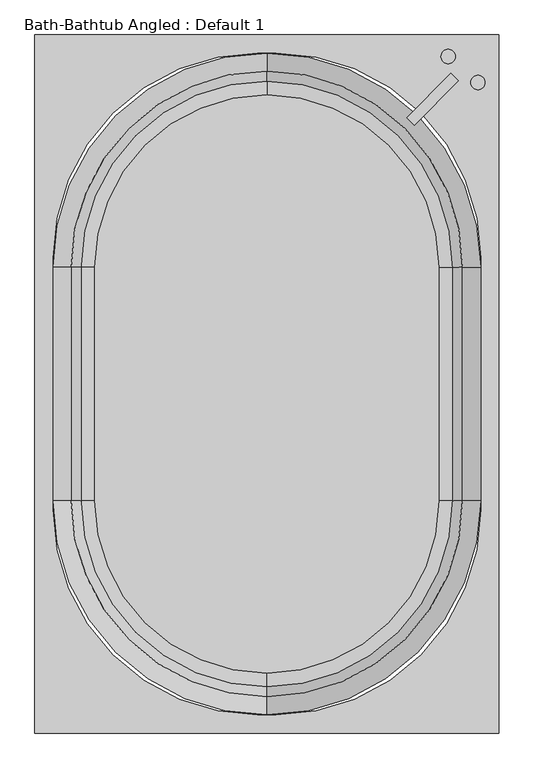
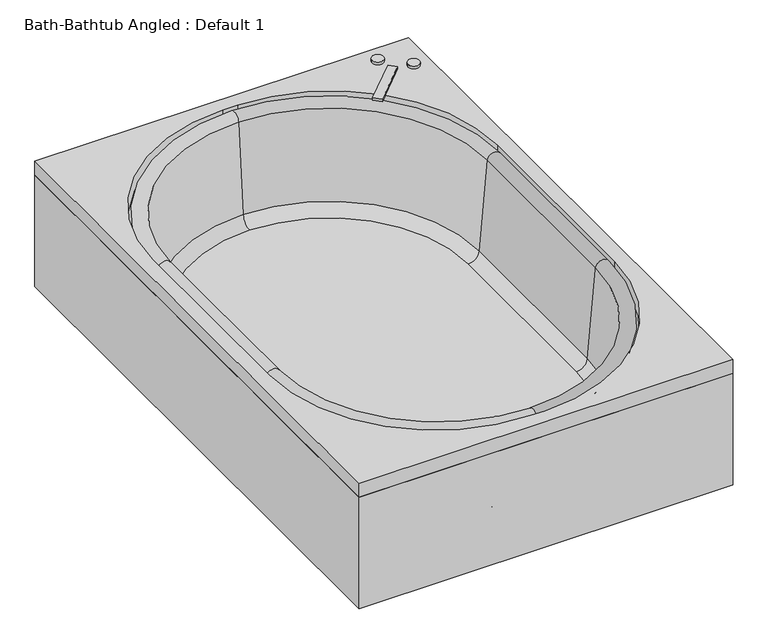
"""IFC4 building model written with IfcOpenShell, lengths in millimetres: flow terminal geometry, Bath-Bathtub Angled : Default 1."""

from ifc_helpers import new_model, si_unit, point, frame, frame_2d, origin, origin_with_axes, place, context, project, spatial, polyline, circle_curve, ellipse_curve, trimmed, segment, composite_curve, outline, extrude, source, transform, mapped, element, save
from ifc_brep_helpers import plane_surface, cylinder_surface, revolved_surface, advanced_brep


def bath_bathtub_angled_default_1_0dda685f(model_context):
    return source(origin(), model_context, "Body", "SolidModel", [
        advanced_brep(
        [(0.0, 796.6318005, 0.0), (-470.3, 326.3318005, 0.0), (-480.5824236, 326.3318005, 0.0), (0.0, 806.9142241, 0.0), (480.5824236, 326.3318005, 0.0), (470.3, 326.3318005, 0.0), (470.3, 326.3318005, 66.3), (0.0, 796.6318005, 66.3), (480.5824236, 326.3318005, 65.9536107), (480.5824236, 326.3318005, 66.3), (0.0, 806.9142241, 65.9536107), (-480.5824236, 326.3318005, 65.9536107), (-470.3, 326.3318005, 66.3), (-480.5824236, 326.3318005, 66.3), (-480.5824236, -326.3318005, 81.38125), (0.0, -806.9142241, 81.38125), (480.5824236, -326.3318005, 81.38125), (480.5824236, 326.3318005, 81.38125), (0.0, 806.9142241, 81.38125), (-480.5824236, 326.3318005, 81.38125), (480.5824236, -326.3318005, 66.3), (0.0, -806.9142241, 66.3), (-480.5824236, -326.3318005, 66.3), (-480.5824236, -326.3318005, 80.8774627), (0.0, -806.9142241, 80.8774627), (480.5824236, -326.3318005, 80.8774627), (480.5824236, 326.3318005, 80.8774627), (0.0, 806.9142241, 80.8774627), (-480.5824236, 326.3318005, 80.8774627), (0.0, -885.5318005, 409.2), (559.2, -326.3318005, 409.2), (571.9, -326.3318005, 409.2), (0.0, -898.2318005, 409.2), (0.0, -859.7363044, 114.3561295), (533.4045038, -326.3318005, 114.3561295), (0.0, -806.9142241, 65.9536107), (480.5824236, -326.3318005, 65.9536107), (0.0, -844.8692421, 115.6568289), (518.5374416, -326.3318005, 115.6568289), (0.0, -873.0879561, 438.1982063), (546.7561556, -326.3318005, 438.1982063), (-571.9, -326.3318005, 409.2), (-559.2, -326.3318005, 409.2), (-533.4045038, -326.3318005, 114.3561295), (-480.5824236, -326.3318005, 65.9536107), (-518.5374416, -326.3318005, 115.6568289), (-546.7561556, -326.3318005, 438.1982063), (-571.9, 326.3318005, 409.2), (-559.2, 326.3318005, 409.2), (-533.4045038, 326.3318005, 114.3561295), (-518.5374416, 326.3318005, 115.6568289), (-546.7561556, 326.3318005, 438.1982063), (0.0, 898.2318005, 409.2), (0.0, 885.5318005, 409.2), (0.0, 859.7363044, 114.3561295), (0.0, 844.8692421, 115.6568289), (0.0, 873.0879561, 438.1982063), (571.9, 326.3318005, 409.2), (559.2, 326.3318005, 409.2), (533.4045038, 326.3318005, 114.3561295), (518.5374416, 326.3318005, 115.6568289), (546.7561556, 326.3318005, 438.1982063)],
        [
            (0, 1, circle_curve(frame((0.0, 326.3318005, 0.0), z_axis=(0.0, 0.0, 1.0), x_axis=(1.0, 0.0, 0.0)), 470.3)),
            (1, 2),
            (2, 3, circle_curve(frame((0.0, 326.3318005, 0.0), z_axis=(0.0, 0.0, -1.0), x_axis=(1.0, 0.0, 0.0)), 480.5824236)),
            (3, 4, circle_curve(frame((0.0, 326.3318005, 0.0), z_axis=(0.0, 0.0, -1.0), x_axis=(1.0, 0.0, 0.0)), 480.5824236)),
            (4, 5),
            (5, 0, circle_curve(frame((0.0, 326.3318005, 0.0), z_axis=(0.0, 0.0, 1.0), x_axis=(1.0, 0.0, 0.0)), 470.3)),
            (5, 6),
            (6, 7, circle_curve(frame((0.0, 326.3318005, 66.3), z_axis=(0.0, 0.0, 1.0), x_axis=(1.0, 0.0, 0.0)), 470.3)),
            (7, 0),
            (4, 8),
            (8, 9),
            (9, 6),
            (3, 10),
            (10, 8, circle_curve(frame((0.0, 326.3318005, 65.9536107), z_axis=(0.0, 0.0, -1.0), x_axis=(1.0, 0.0, 0.0)), 480.5824236)),
            (2, 11),
            (11, 10, circle_curve(frame((0.0, 326.3318005, 65.9536107), z_axis=(0.0, 0.0, -1.0), x_axis=(1.0, 0.0, 0.0)), 480.5824236)),
            (1, 12),
            (12, 13),
            (13, 11),
            (7, 12, circle_curve(frame((0.0, 326.3318005, 66.3), z_axis=(0.0, 0.0, 1.0), x_axis=(1.0, 0.0, 0.0)), 470.3)),
            (14, 15, circle_curve(frame((0.0, -326.3318005, 81.38125), z_axis=(0.0, 0.0, 1.0), x_axis=(0.0, -1.0, 0.0)), 480.5824236)),
            (15, 16, circle_curve(frame((0.0, -326.3318005, 81.38125), z_axis=(0.0, 0.0, 1.0), x_axis=(0.0, -1.0, 0.0)), 480.5824236)),
            (16, 17),
            (17, 18, circle_curve(frame((0.0, 326.3318005, 81.38125), z_axis=(0.0, 0.0, 1.0), x_axis=(0.0, -1.0, 0.0)), 480.5824236)),
            (18, 19, circle_curve(frame((0.0, 326.3318005, 81.38125), z_axis=(0.0, 0.0, 1.0), x_axis=(0.0, -1.0, 0.0)), 480.5824236)),
            (19, 14),
            (9, 20),
            (20, 21, circle_curve(frame((0.0, -326.3318005, 66.3), z_axis=(0.0, 0.0, -1.0), x_axis=(1.0, 0.0, 0.0)), 480.5824236)),
            (21, 22, circle_curve(frame((0.0, -326.3318005, 66.3), z_axis=(0.0, 0.0, -1.0), x_axis=(0.0, -1.0, 0.0)), 480.5824236)),
            (22, 13),
            (14, 23),
            (23, 24, circle_curve(frame((0.0, -326.3318005, 80.8774627), z_axis=(0.0, 0.0, 1.0), x_axis=(0.0, -1.0, 0.0)), 480.5824236)),
            (24, 15),
            (24, 25, circle_curve(frame((0.0, -326.3318005, 80.8774627), z_axis=(0.0, 0.0, 1.0), x_axis=(0.0, -1.0, 0.0)), 480.5824236)),
            (25, 16),
            (25, 26),
            (26, 17),
            (26, 27, circle_curve(frame((0.0, 326.3318005, 80.8774627), z_axis=(0.0, 0.0, 1.0), x_axis=(0.0, -1.0, 0.0)), 480.5824236)),
            (27, 18),
            (27, 28, circle_curve(frame((0.0, 326.3318005, 80.8774627), z_axis=(0.0, 0.0, 1.0), x_axis=(0.0, -1.0, 0.0)), 480.5824236)),
            (28, 19),
            (28, 23),
            (29, 30, circle_curve(frame((0.0, -326.3318005, 409.2), z_axis=(0.0, 0.0, 1.0), x_axis=(1.0, 0.0, 0.0)), 559.2)),
            (30, 31),
            (31, 32, circle_curve(frame((0.0, -326.3318005, 409.2), z_axis=(0.0, 0.0, -1.0), x_axis=(1.0, 0.0, 0.0)), 571.9)),
            (32, 29),
            (29, 33),
            (33, 34, circle_curve(frame((0.0, -326.3318005, 114.3561295), z_axis=(0.0, 0.0, 1.0), x_axis=(1.0, 0.0, 0.0)), 533.4045038)),
            (34, 30),
            (33, 35, circle_curve(frame((0.0, -806.9142241, 118.9774627), z_axis=(1.0, 0.0, 0.0), x_axis=(0.0, -1.0, 0.0)), 53.023852)),
            (35, 36, circle_curve(frame((0.0, -326.3318005, 65.9536107), z_axis=(0.0, 0.0, 1.0), x_axis=(1.0, 0.0, 0.0)), 480.5824236)),
            (36, 34, circle_curve(frame((480.5824236, -326.3318005, 118.9774627), z_axis=(0.0, -1.0, 0.0), x_axis=(1.0, 0.0, 0.0)), 53.023852)),
            (35, 21),
            (20, 36),
            (37, 38, circle_curve(frame((0.0, -326.3318005, 115.6568289), z_axis=(0.0, 0.0, 1.0), x_axis=(1.0, 0.0, 0.0)), 518.5374416)),
            (38, 25, circle_curve(frame((480.5824236, -326.3318005, 118.9774627), z_axis=(0.0, 1.0, 0.0), x_axis=(1.0, 0.0, 0.0)), 38.1)),
            (24, 37, circle_curve(frame((0.0, -806.9142241, 118.9774627), z_axis=(-1.0, 0.0, 0.0), x_axis=(0.0, -1.0, 0.0)), 38.1)),
            (37, 39),
            (39, 40, circle_curve(frame((0.0, -326.3318005, 438.1982063), z_axis=(0.0, 0.0, 1.0), x_axis=(1.0, 0.0, 0.0)), 546.7561556)),
            (40, 38),
            (31, 40, circle_curve(frame((571.9, -326.3318005, 434.6), z_axis=(0.0, -1.0, 0.0), x_axis=(1.0, 0.0, 0.0)), 25.4)),
            (39, 32, circle_curve(frame((0.0, -898.2318005, 434.6), z_axis=(1.0, 0.0, 0.0), x_axis=(0.0, -1.0, 0.0)), 25.4)),
            (32, 41, circle_curve(frame((0.0, -326.3318005, 409.2), z_axis=(0.0, 0.0, -1.0), x_axis=(0.0, -1.0, 0.0)), 571.9)),
            (41, 42),
            (42, 29, circle_curve(frame((0.0, -326.3318005, 409.2), z_axis=(0.0, 0.0, 1.0), x_axis=(0.0, -1.0, 0.0)), 559.2)),
            (42, 43),
            (43, 33, circle_curve(frame((0.0, -326.3318005, 114.3561295), z_axis=(0.0, 0.0, 1.0), x_axis=(0.0, -1.0, 0.0)), 533.4045038)),
            (43, 44, circle_curve(frame((-480.5824236, -326.3318005, 118.9774627), z_axis=(0.0, -1.0, 0.0), x_axis=(-1.0, 0.0, 0.0)), 53.023852)),
            (44, 35, circle_curve(frame((0.0, -326.3318005, 65.9536107), z_axis=(0.0, 0.0, 1.0), x_axis=(0.0, -1.0, 0.0)), 480.5824236)),
            (44, 22),
            (23, 45, circle_curve(frame((-480.5824236, -326.3318005, 118.9774627), z_axis=(0.0, 1.0, 0.0), x_axis=(-1.0, 0.0, 0.0)), 38.1)),
            (45, 37, circle_curve(frame((0.0, -326.3318005, 115.6568289), z_axis=(0.0, 0.0, 1.0), x_axis=(0.0, -1.0, 0.0)), 518.5374416)),
            (45, 46),
            (46, 39, circle_curve(frame((0.0, -326.3318005, 438.1982063), z_axis=(0.0, 0.0, 1.0), x_axis=(0.0, -1.0, 0.0)), 546.7561556)),
            (46, 41, circle_curve(frame((-571.9, -326.3318005, 434.6), z_axis=(0.0, -1.0, 0.0), x_axis=(-1.0, 0.0, 0.0)), 25.4)),
            (41, 47),
            (47, 48),
            (48, 42),
            (48, 49),
            (49, 43),
            (49, 11, circle_curve(frame((-480.5824236, 326.3318005, 118.9774627), z_axis=(0.0, -1.0, 0.0), x_axis=(-1.0, 0.0, 0.0)), 53.023852)),
            (11, 44),
            (28, 50, circle_curve(frame((-480.5824236, 326.3318005, 118.9774627), z_axis=(0.0, 1.0, 0.0), x_axis=(-1.0, 0.0, 0.0)), 38.1)),
            (50, 45),
            (50, 51),
            (51, 46),
            (51, 47, circle_curve(frame((-571.9, 326.3318005, 434.6), z_axis=(0.0, -1.0, 0.0), x_axis=(-1.0, 0.0, 0.0)), 25.4)),
            (47, 52, circle_curve(frame((0.0, 326.3318005, 409.2), z_axis=(0.0, 0.0, -1.0), x_axis=(-1.0, 0.0, 0.0)), 571.9)),
            (52, 53),
            (53, 48, circle_curve(frame((0.0, 326.3318005, 409.2), z_axis=(0.0, 0.0, 1.0), x_axis=(-1.0, 0.0, 0.0)), 559.2)),
            (53, 54),
            (54, 49, circle_curve(frame((0.0, 326.3318005, 114.3561295), z_axis=(0.0, 0.0, 1.0), x_axis=(-1.0, 0.0, 0.0)), 533.4045038)),
            (54, 10, circle_curve(frame((0.0, 806.9142241, 118.9774627), z_axis=(-1.0, 0.0, 0.0), x_axis=(0.0, 1.0, 0.0)), 53.023852)),
            (27, 55, circle_curve(frame((0.0, 806.9142241, 118.9774627), z_axis=(1.0, 0.0, 0.0), x_axis=(0.0, 1.0, 0.0)), 38.1)),
            (55, 50, circle_curve(frame((0.0, 326.3318005, 115.6568289), z_axis=(0.0, 0.0, 1.0), x_axis=(-1.0, 0.0, 0.0)), 518.5374416)),
            (55, 56),
            (56, 51, circle_curve(frame((0.0, 326.3318005, 438.1982063), z_axis=(0.0, 0.0, 1.0), x_axis=(-1.0, 0.0, 0.0)), 546.7561556)),
            (56, 52, circle_curve(frame((0.0, 898.2318005, 434.6), z_axis=(-1.0, 0.0, 0.0), x_axis=(0.0, 1.0, 0.0)), 25.4)),
            (52, 57, circle_curve(frame((0.0, 326.3318005, 409.2), z_axis=(0.0, 0.0, -1.0), x_axis=(0.0, 1.0, 0.0)), 571.9)),
            (57, 58),
            (58, 53, circle_curve(frame((0.0, 326.3318005, 409.2), z_axis=(0.0, 0.0, 1.0), x_axis=(0.0, 1.0, 0.0)), 559.2)),
            (58, 59),
            (59, 54, circle_curve(frame((0.0, 326.3318005, 114.3561295), z_axis=(0.0, 0.0, 1.0), x_axis=(0.0, 1.0, 0.0)), 533.4045038)),
            (59, 8, circle_curve(frame((480.5824236, 326.3318005, 118.9774627), z_axis=(0.0, 1.0, 0.0), x_axis=(1.0, 0.0, 0.0)), 53.023852)),
            (26, 60, circle_curve(frame((480.5824236, 326.3318005, 118.9774627), z_axis=(0.0, -1.0, 0.0), x_axis=(1.0, 0.0, 0.0)), 38.1)),
            (60, 55, circle_curve(frame((0.0, 326.3318005, 115.6568289), z_axis=(0.0, 0.0, 1.0), x_axis=(0.0, 1.0, 0.0)), 518.5374416)),
            (60, 61),
            (61, 56, circle_curve(frame((0.0, 326.3318005, 438.1982063), z_axis=(0.0, 0.0, 1.0), x_axis=(0.0, 1.0, 0.0)), 546.7561556)),
            (61, 57, circle_curve(frame((571.9, 326.3318005, 434.6), z_axis=(0.0, 1.0, 0.0), x_axis=(1.0, 0.0, 0.0)), 25.4)),
            (30, 58),
            (57, 31),
            (34, 59),
            (36, 8),
            (38, 60),
            (40, 61),
        ],
        [
            plane_surface(frame((470.3, 326.3318005, 0.0), z_axis=(0.0, 0.0, -1.0), x_axis=(0.0, 1.0, 0.0))),
            revolved_surface(polyline([(470.3, 326.3318005, 0.0), (470.3, 326.3318005, 66.3)]), (0.0, 326.3318005, 0.0), (0.0, 0.0, -1.0)),
            plane_surface(frame((470.3, 326.3318005, 66.3), z_axis=(0.0, -1.0, 0.0), x_axis=(0.0, 0.0, -1.0))),
            cylinder_surface(frame((0.0, 326.3318005, 0.0), z_axis=(0.0, 0.0, 1.0), x_axis=(1.0, 0.0, 0.0)), 480.5824236),
            plane_surface(frame((-480.5824236, 326.3318005, 66.3), z_axis=(0.0, -1.0, 0.0), x_axis=(0.0, 0.0, -1.0))),
            plane_surface(frame((0.0, -806.9142241, 81.38125), z_axis=(0.0, 0.0, 1.0), x_axis=(1.0, 0.0, 0.0))),
            plane_surface(frame((0.0, -806.9142241, 66.3), z_axis=(0.0, 0.0, -1.0), x_axis=(-1.0, 0.0, 0.0))),
            cylinder_surface(frame((0.0, -326.3318005, 66.3), z_axis=(0.0, 0.0, 1.0), x_axis=(0.0, -1.0, 0.0)), 480.5824236),
            plane_surface(frame((480.5824236, -326.3318005, 81.38125), z_axis=(1.0, 0.0, 0.0), x_axis=(0.0, 0.0, -1.0))),
            cylinder_surface(frame((0.0, 326.3318005, 66.3), z_axis=(0.0, 0.0, 1.0), x_axis=(0.0, -1.0, 0.0)), 480.5824236),
            plane_surface(frame((-480.5824236, 326.3318005, 81.38125), z_axis=(-1.0, 0.0, 0.0), x_axis=(0.0, 0.0, -1.0))),
            plane_surface(frame((0.0, -326.3318005, 409.2), z_axis=(0.0, 0.0, -1.0), x_axis=(1.0, 0.0, 0.0))),
            revolved_surface(polyline([(559.2, -326.3318005, 409.2), (533.4045038, -326.3318005, 114.3561295)]), (0.0, -326.3318005, 434.6), (0.0, 0.0, -1.0)),
            revolved_surface(trimmed(ellipse_curve(frame((480.5824236, -326.3318005, 118.9774627), z_axis=(0.0, 1.0, 0.0), x_axis=(1.0, 0.0, 0.0)), 53.023852, 53.023852), [point((533.4045038, -326.3318005, 114.3561295))], [point((480.5824236, -326.3318005, 65.9536107))], True, "CARTESIAN"), (0.0, -326.3318005, 434.6), (0.0, 0.0, -1.0)),
            revolved_surface(polyline([(480.5824236, -326.3318005, 65.95361070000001), (480.5824236, -326.3318005, 66.30000000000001)]), (0.0, -326.3318005, 434.6), (0.0, 0.0, -1.0)),
            revolved_surface(trimmed(ellipse_curve(frame((480.5824236, -326.3318005, 118.9774627), z_axis=(0.0, -1.0, 0.0), x_axis=(1.0, 0.0, 0.0)), 38.1, 38.1), [point((480.5824236, -326.3318005, 80.8774627))], [point((518.5374416, -326.3318005, 115.6568289))], True, "CARTESIAN"), (0.0, -326.3318005, 434.6), (0.0, 0.0, -1.0)),
            revolved_surface(polyline([(518.5374416, -326.3318005, 115.6568289), (546.7561556, -326.3318005, 438.1982063)]), (0.0, -326.3318005, 434.6), (0.0, 0.0, -1.0)),
            revolved_surface(trimmed(ellipse_curve(frame((571.9, -326.3318005, 434.6), z_axis=(0.0, 1.0, 0.0), x_axis=(1.0, 0.0, 0.0)), 25.4, 25.4), [point((546.7561556, -326.3318005, 438.1982063))], [point((571.9, -326.3318005, 409.2))], True, "CARTESIAN"), (0.0, -326.3318005, 434.6), (0.0, 0.0, -1.0)),
            plane_surface(frame((0.0, -326.3318005, 409.2), z_axis=(0.0, 0.0, -1.0), x_axis=(0.0, -1.0, 0.0))),
            revolved_surface(polyline([(0.0, -885.5318005, 409.2), (0.0, -859.7363044, 114.3561295)]), (0.0, -326.3318005, 434.6), (0.0, 0.0, -1.0)),
            revolved_surface(trimmed(ellipse_curve(frame((0.0, -806.9142241, 118.9774627), z_axis=(1.0, 0.0, 0.0), x_axis=(0.0, -1.0, 0.0)), 53.023852, 53.023852), [point((0.0, -859.7363044, 114.3561295))], [point((0.0, -806.9142241, 65.9536107))], True, "CARTESIAN"), (0.0, -326.3318005, 434.6), (0.0, 0.0, -1.0)),
            revolved_surface(polyline([(0.0, -806.9142241, 65.95361070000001), (0.0, -806.9142241, 66.30000000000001)]), (0.0, -326.3318005, 434.6), (0.0, 0.0, -1.0)),
            revolved_surface(trimmed(ellipse_curve(frame((0.0, -806.9142241, 118.9774627), z_axis=(-1.0, 0.0, 0.0), x_axis=(0.0, -1.0, 0.0)), 38.1, 38.1), [point((0.0, -806.9142241, 80.8774627))], [point((0.0, -844.8692421, 115.6568289))], True, "CARTESIAN"), (0.0, -326.3318005, 434.6), (0.0, 0.0, -1.0)),
            revolved_surface(polyline([(0.0, -844.8692421, 115.6568289), (0.0, -873.0879561, 438.1982063)]), (0.0, -326.3318005, 434.6), (0.0, 0.0, -1.0)),
            revolved_surface(trimmed(ellipse_curve(frame((0.0, -898.2318005, 434.6), z_axis=(1.0, 0.0, 0.0), x_axis=(0.0, -1.0, 0.0)), 25.4, 25.4), [point((0.0, -873.0879561, 438.1982063))], [point((0.0, -898.2318005, 409.2))], True, "CARTESIAN"), (0.0, -326.3318005, 434.6), (0.0, 0.0, -1.0)),
            plane_surface(frame((-571.9, -326.3318005, 409.2), z_axis=(0.0, 0.0, -1.0), x_axis=(0.0, 1.0, 0.0))),
            plane_surface(frame((-559.2, -326.3318005, 409.2), z_axis=(-0.9961946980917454, 0.0, -0.08715574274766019), x_axis=(0.0, 1.0, 0.0))),
            cylinder_surface(frame((-480.5824236, -326.3318005, 118.9774627), z_axis=(0.0, -1.0, 0.0), x_axis=(-1.0, 0.0, 0.0)), 53.023852),
            plane_surface(frame((-480.5824236, -326.3318005, 65.9536107), z_axis=(1.0, 0.0, 0.0), x_axis=(0.0, 1.0, 0.0))),
            revolved_surface(polyline([(-518.6824236, 326.3318005, 118.9774627), (-518.6824236, -326.3318005, 118.9774627)]), (-480.5824236, -326.3318005, 118.9774627), (0.0, 1.0, 0.0)),
            plane_surface(frame((-518.5374416, -326.3318005, 115.6568289), z_axis=(0.9961946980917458, 0.0, 0.08715574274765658), x_axis=(0.0, 1.0, 0.0))),
            cylinder_surface(frame((-571.9, -326.3318005, 434.6), z_axis=(0.0, -1.0, 0.0), x_axis=(-1.0, 0.0, 0.0)), 25.4),
            plane_surface(frame((0.0, 326.3318005, 409.2), z_axis=(0.0, 0.0, -1.0), x_axis=(-1.0, 0.0, 0.0))),
            revolved_surface(polyline([(-559.2, 326.3318005, 409.2), (-533.4045038, 326.3318005, 114.3561295)]), (0.0, 326.3318005, 434.6), (0.0, 0.0, -1.0)),
            revolved_surface(trimmed(ellipse_curve(frame((-480.5824236, 326.3318005, 118.9774627), z_axis=(0.0, -1.0, 0.0), x_axis=(-1.0, 0.0, 0.0)), 53.023852, 53.023852), [point((-533.4045038, 326.3318005, 114.3561295))], [point((-480.5824236, 326.3318005, 65.9536107))], True, "CARTESIAN"), (0.0, 326.3318005, 434.6), (0.0, 0.0, -1.0)),
            revolved_surface(trimmed(ellipse_curve(frame((-480.5824236, 326.3318005, 118.9774627), z_axis=(0.0, 1.0, 0.0), x_axis=(-1.0, 0.0, 0.0)), 38.1, 38.1), [point((-480.5824236, 326.3318005, 80.8774627))], [point((-518.5374416, 326.3318005, 115.6568289))], True, "CARTESIAN"), (0.0, 326.3318005, 434.6), (0.0, 0.0, -1.0)),
            revolved_surface(polyline([(-518.5374416, 326.3318005, 115.6568289), (-546.7561556, 326.3318005, 438.1982063)]), (0.0, 326.3318005, 434.6), (0.0, 0.0, -1.0)),
            revolved_surface(trimmed(ellipse_curve(frame((-571.9, 326.3318005, 434.6), z_axis=(0.0, -1.0, 0.0), x_axis=(-1.0, 0.0, 0.0)), 25.4, 25.4), [point((-546.7561556, 326.3318005, 438.1982063))], [point((-571.9, 326.3318005, 409.2))], True, "CARTESIAN"), (0.0, 326.3318005, 434.6), (0.0, 0.0, -1.0)),
            plane_surface(frame((0.0, 326.3318005, 409.2), z_axis=(0.0, 0.0, -1.0), x_axis=(0.0, 1.0, 0.0))),
            revolved_surface(polyline([(0.0, 885.5318005, 409.2), (0.0, 859.7363044, 114.3561295)]), (0.0, 326.3318005, 434.6), (0.0, 0.0, -1.0)),
            revolved_surface(trimmed(ellipse_curve(frame((0.0, 806.9142241, 118.9774627), z_axis=(-1.0, 0.0, 0.0), x_axis=(0.0, 1.0, 0.0)), 53.023852, 53.023852), [point((0.0, 859.7363044, 114.3561295))], [point((0.0, 806.9142241, 65.9536107))], True, "CARTESIAN"), (0.0, 326.3318005, 434.6), (0.0, 0.0, -1.0)),
            revolved_surface(trimmed(ellipse_curve(frame((0.0, 806.9142241, 118.9774627), z_axis=(1.0, 0.0, 0.0), x_axis=(0.0, 1.0, 0.0)), 38.1, 38.1), [point((0.0, 806.9142241, 80.8774627))], [point((0.0, 844.8692421, 115.6568289))], True, "CARTESIAN"), (0.0, 326.3318005, 434.6), (0.0, 0.0, -1.0)),
            revolved_surface(polyline([(0.0, 844.8692421, 115.6568289), (0.0, 873.0879561, 438.1982063)]), (0.0, 326.3318005, 434.6), (0.0, 0.0, -1.0)),
            revolved_surface(trimmed(ellipse_curve(frame((0.0, 898.2318005, 434.6), z_axis=(-1.0, 0.0, 0.0), x_axis=(0.0, 1.0, 0.0)), 25.4, 25.4), [point((0.0, 873.0879561, 438.1982063))], [point((0.0, 898.2318005, 409.2))], True, "CARTESIAN"), (0.0, 326.3318005, 434.6), (0.0, 0.0, -1.0)),
            plane_surface(frame((571.9, 326.3318005, 409.2), z_axis=(0.0, 0.0, -1.0), x_axis=(0.0, -1.0, 0.0))),
            plane_surface(frame((559.2, 326.3318005, 409.2), z_axis=(0.9961946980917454, 0.0, -0.08715574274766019), x_axis=(0.0, -1.0, 0.0))),
            cylinder_surface(frame((480.5824236, 326.3318005, 118.9774627), z_axis=(0.0, 1.0, 0.0), x_axis=(1.0, 0.0, 0.0)), 53.023852),
            plane_surface(frame((480.5824236, 326.3318005, 65.9536107), z_axis=(-1.0, 0.0, 0.0), x_axis=(0.0, -1.0, 0.0))),
            revolved_surface(polyline([(518.6824236, -326.3318005, 118.9774627), (518.6824236, 326.3318005, 118.9774627)]), (480.5824236, 326.3318005, 118.9774627), (0.0, -1.0, 0.0)),
            plane_surface(frame((518.5374416, 326.3318005, 115.6568289), z_axis=(-0.9961946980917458, 0.0, 0.08715574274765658), x_axis=(0.0, -1.0, 0.0))),
            cylinder_surface(frame((571.9, 326.3318005, 434.6), z_axis=(0.0, 1.0, 0.0), x_axis=(1.0, 0.0, 0.0)), 25.4),
        ],
        [
            (0, [[1, 2, 3, 4, 5, 6]]),
            (1, [[-6, 7, 8, 9]]),
            (2, [[-5, 10, 11, 12, -7]]),
            (3, [[-4, 13, 14, -10]]),
            (3, [[-3, 15, 16, -13]]),
            (4, [[-2, 17, 18, 19, -15]]),
            (1, [[-1, -9, 20, -17]]),
            (5, [[21, 22, 23, 24, 25, 26]]),
            (6, [[-8, -12, 27, 28, 29, 30, -18, -20]]),
            (7, [[-21, 31, 32, 33]]),
            (7, [[-22, -33, 34, 35]]),
            (8, [[-23, -35, 36, 37]]),
            (9, [[-24, -37, 38, 39]]),
            (9, [[-25, -39, 40, 41]]),
            (10, [[-26, -41, 42, -31]]),
            (11, [[43, 44, 45, 46]]),
            (12, [[-43, 47, 48, 49]]),
            (13, [[-48, 50, 51, 52]]),
            (14, [[-51, 53, -28, 54]]),
            (15, [[55, 56, -34, 57]]),
            (16, [[-55, 58, 59, 60]]),
            (17, [[-45, 61, -59, 62]]),
            (18, [[-46, 63, 64, 65]]),
            (19, [[-47, -65, 66, 67]]),
            (20, [[-50, -67, 68, 69]]),
            (21, [[-69, 70, -29, -53]]),
            (22, [[-57, -32, 71, 72]]),
            (23, [[-58, -72, 73, 74]]),
            (24, [[-62, -74, 75, -63]]),
            (25, [[-64, 76, 77, 78]]),
            (26, [[-66, -78, 79, 80]]),
            (27, [[-68, -80, 81, 82]]),
            (28, [[-82, -19, -30, -70]]),
            (29, [[-71, -42, 83, 84]]),
            (30, [[-73, -84, 85, 86]]),
            (31, [[-75, -86, 87, -76]]),
            (32, [[-77, 88, 89, 90]]),
            (33, [[-79, -90, 91, 92]]),
            (34, [[-81, -92, 93, -16]]),
            (35, [[-83, -40, 94, 95]]),
            (36, [[-85, -95, 96, 97]]),
            (37, [[-87, -97, 98, -88]]),
            (38, [[-89, 99, 100, 101]]),
            (39, [[-91, -101, 102, 103]]),
            (40, [[-93, -103, 104, -14]]),
            (41, [[-94, -38, 105, 106]]),
            (42, [[-96, -106, 107, 108]]),
            (43, [[-98, -108, 109, -99]]),
            (44, [[-44, 110, -100, 111]]),
            (45, [[-49, 112, -102, -110]]),
            (46, [[-52, 113, -104, -112]]),
            (47, [[-113, -54, -27, -11]]),
            (48, [[-56, 114, -105, -36]]),
            (49, [[-60, 115, -107, -114]]),
            (50, [[-61, -111, -109, -115]]),
        ],
    ),
        extrude(outline(composite_curve([segment(trimmed(circle_curve(frame_2d((0.0, -326.3318005)), 480.5824236), [point((0.0, -806.9142241))], [point((-480.5824236, -326.3318005))], False, "CARTESIAN"), True, "CONTINUOUS"), segment(polyline([(-480.5824236, -326.3318005), (-470.3, -326.3318005)]), True, "CONTINUOUS"), segment(trimmed(circle_curve(frame_2d((0.0, -326.3318005)), 470.3), [point((-470.3, -326.3318005))], [point((0.0, -796.6318005))], True, "CARTESIAN"), True, "CONTINUOUS"), segment(trimmed(circle_curve(frame_2d((0.0, -326.3318005)), 470.3), [point((0.0, -796.6318005))], [point((470.3, -326.3318005))], True, "CARTESIAN"), True, "CONTINUOUS"), segment(polyline([(470.3, -326.3318005), (480.5824236, -326.3318005)]), True, "CONTINUOUS"), segment(trimmed(circle_curve(frame_2d((0.0, -326.3318005)), 480.5824236), [point((480.5824236, -326.3318005))], [point((0.0, -806.9142241))], False, "CARTESIAN"), True, "CONTINUOUS")], self_intersect=False)), origin_with_axes(), (0.0, 0.0, 1.0), 66.3),
        extrude(outline(polyline([(-648.1, 974.4318005), (648.1, 974.4318005), (648.1, -974.4318005), (-648.1, -974.4318005), (-648.1, 974.4318005)]), holes=[polyline([(-641.75, -968.0818005), (641.75, -968.0818005), (641.75, 968.0818005), (-641.75, 968.0818005), (-641.75, -968.0818005)])]), origin_with_axes(), (0.0, 0.0, 1.0), 409.2),
        extrude(outline(composite_curve([segment(trimmed(circle_curve(frame_2d((506.6287885, 913.927107)), 20.0), [point((486.6287885, 913.927107))], [point((526.6287885, 913.927107))], False, "CARTESIAN"), True, "CONTINUOUS"), segment(trimmed(circle_curve(frame_2d((506.6287885, 913.927107)), 20.0), [point((526.6287885, 913.927107))], [point((486.6287885, 913.927107))], False, "CARTESIAN"), True, "CONTINUOUS")], self_intersect=False)), frame((0.0, 0.0, 460.0), z_axis=(0.0, 0.0, 1.0), x_axis=(1.0, 0.0, 0.0)), (0.0, 0.0, 1.0), 10.0),
        extrude(outline(composite_curve([segment(trimmed(circle_curve(frame_2d((589.6468423, 841.7606138)), 20.0), [point((569.6468423, 841.7606138))], [point((609.6468423, 841.7606138))], False, "CARTESIAN"), True, "CONTINUOUS"), segment(trimmed(circle_curve(frame_2d((589.6468423, 841.7606138)), 20.0), [point((609.6468423, 841.7606138))], [point((569.6468423, 841.7606138))], False, "CARTESIAN"), True, "CONTINUOUS")], self_intersect=False)), frame((0.0, 0.0, 460.0), z_axis=(0.0, 0.0, 1.0), x_axis=(1.0, 0.0, 0.0)), (0.0, 0.0, 1.0), 10.0),
        extrude(outline(polyline([(514.4691101, 867.0448059), (535.6823136, 845.8316025), (411.9325407, 722.0818296), (390.7193373, 743.2950331), (514.4691101, 867.0448059)])), frame((0.0, 0.0, 460.0), z_axis=(0.0, 0.0, 1.0), x_axis=(1.0, 0.0, 0.0)), (0.0, 0.0, 1.0), 10.0),
        extrude(outline(polyline([(648.1, 974.4318005), (648.1, -974.4318005), (-648.1, -974.4318005), (-648.1, 974.4318005), (648.1, 974.4318005)]), holes=[composite_curve([segment(polyline([(-597.3, 351.7318005), (-597.3, -351.7318005)]), True, "CONTINUOUS"), segment(trimmed(circle_curve(frame_2d((-25.4, -351.7318005)), 571.9), [point((-597.3, -351.7318005))], [point((-25.4, -923.6318005))], True, "CARTESIAN"), True, "CONTINUOUS"), segment(polyline([(-25.4, -923.6318005), (25.4, -923.6318005)]), True, "CONTINUOUS"), segment(trimmed(circle_curve(frame_2d((25.4, -351.7318005)), 571.9), [point((25.4, -923.6318005))], [point((597.3, -351.7318005))], True, "CARTESIAN"), True, "CONTINUOUS"), segment(polyline([(597.3, -351.7318005), (597.3, 351.7318005)]), True, "CONTINUOUS"), segment(trimmed(circle_curve(frame_2d((25.4, 351.7318005)), 571.9), [point((597.3, 351.7318005))], [point((25.4, 923.6318005))], True, "CARTESIAN"), True, "CONTINUOUS"), segment(polyline([(25.4, 923.6318005), (-25.4, 923.6318005)]), True, "CONTINUOUS"), segment(trimmed(circle_curve(frame_2d((-25.4, 351.7318005)), 571.9), [point((-25.4, 923.6318005))], [point((-597.3, 351.7318005))], True, "CARTESIAN"), True, "CONTINUOUS")], self_intersect=False)]), frame((0.0, 0.0, 409.2), z_axis=(0.0, 0.0, 1.0), x_axis=(1.0, 0.0, 0.0)), (0.0, 0.0, 1.0), 50.8),
    ])


if __name__ == "__main__":
    model = new_model("IFC4")
    model_context = context("Model", 3, world=origin())
    ifc_project = project(units=[si_unit("LENGTHUNIT", "METRE", prefix="MILLI")], contexts=[model_context])
    site = spatial("IfcSite", under=ifc_project)
    building = spatial("IfcBuilding", under=site)
    placement = place(None, origin())
    bath_bathtub_angled_default_1_shape = bath_bathtub_angled_default_1_0dda685f(model_context)
    element("IfcFlowTerminal", 1, ObjectType="Bath-Bathtub Angled : Default 1", at=placement, inside=building, context=model_context, shape_type="MappedRepresentation", body=[
        mapped(bath_bathtub_angled_default_1_shape, transform((0.0, 0.0, 0.0), x_axis=(1.0, 0.0, 0.0), y_axis=(0.0, 1.0, 0.0), z_axis=(0.0, 0.0, 1.0))),
    ])
    save(model, "model.ifc")
